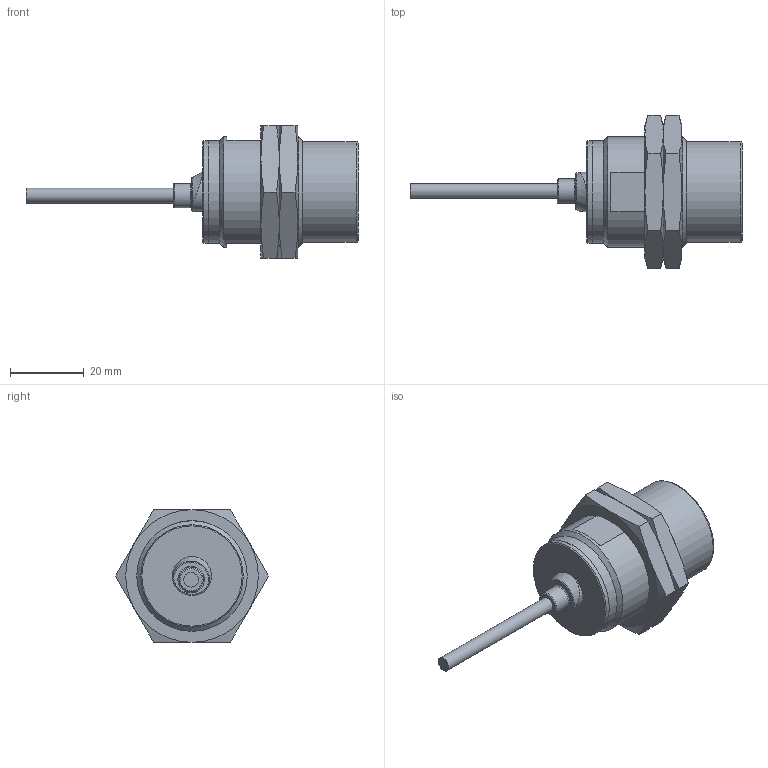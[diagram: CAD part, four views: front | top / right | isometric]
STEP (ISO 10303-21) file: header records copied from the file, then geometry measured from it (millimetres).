
FILE_DESCRIPTION( ( 'STEP AP203' ), '1' );
FILE_NAME( 'p:/temp/worker_4/temp/exporttempdir_2640_1091_cjHSk/format_0/IIS702.stp', '2020-03-13T07:09:30', ( '' ), ( '' ), ' ', 'PARTsolutions', ' ' );
FILE_SCHEMA( ( 'CONFIG_CONTROL_DESIGN' ) );
Length unit declared in the file: millimetre
Products named in the file (3): IIS702; _IIS702_p1; _IIS700_p2
Assembly tree (3 placements, depth 2):
  IIS702
    _IIS702_p1
    _IIS700_p2  x2
Bounding box: 90.1 x 41.57 x 36 mm (x, y, z)
Volume: 32878 mm3; surface area: 9596.8 mm2
Topology: 3 solids, 3 shells, 75 faces, 155 edges, 92 vertices
Faces by surface type: cone 31, plane 29, cylinder 9, torus 6
Full cylindrical faces by diameter (mm): 4 x1, 6.6 x1, 10.6 x1, 27.4 x1, 27.8 x1, 27.82 x1, 28.376 x2, 30 x1
Entity records: 1478 total; most frequent: CARTESIAN_POINT 386, DIRECTION 210, ORIENTED_EDGE 170, AXIS2_PLACEMENT_3D 98, EDGE_CURVE 85, EDGE_LOOP 77, FACE_OUTER_BOUND 64, VERTEX_POINT 60
